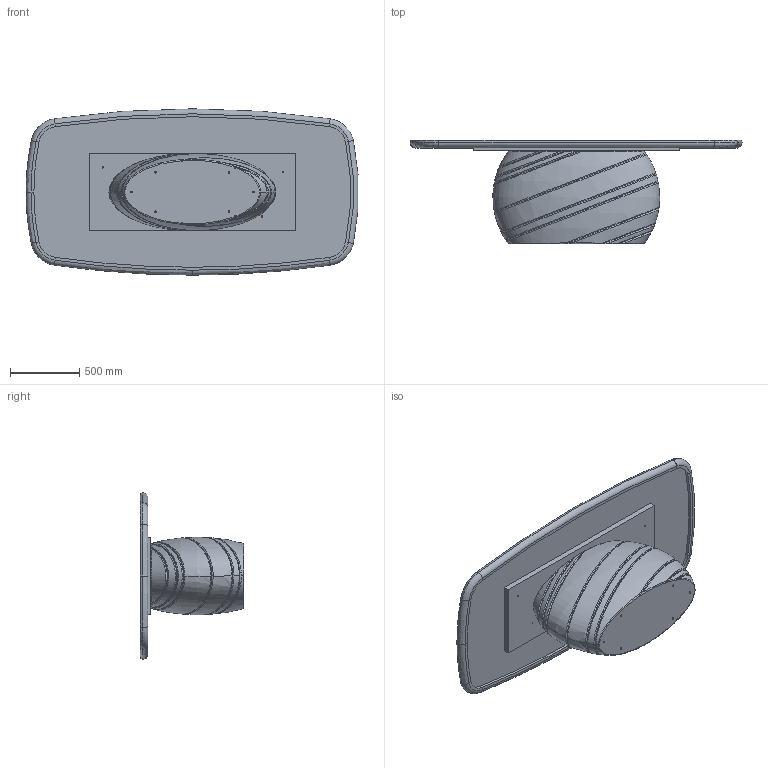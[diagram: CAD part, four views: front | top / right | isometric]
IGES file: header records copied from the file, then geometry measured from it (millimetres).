
Start section: SolidWorks IGES file using analytic representation for surfaces
Global section: file name: Y:\eforma\TECNICO\SOLIDWORKS\E-FORMA\1-TAVOLI\GIOVE\08 modelli 3D web\king 240x120 sag.IGS; native system: SolidWorks 2022; preprocessor: SolidWorks 2022; author: eforma.tech; date: 250526.160329; units: millimetre
Bounding box: 2395.81 x 748 x 1200 mm (x, y, z)
Volume: 450718620.4 mm3; surface area: 15442305.3 mm2
Topology: 4 solids, 4 shells, 220 faces, 522 edges, 325 vertices
Faces by surface type: revolution 116, bspline 53, plane 51
